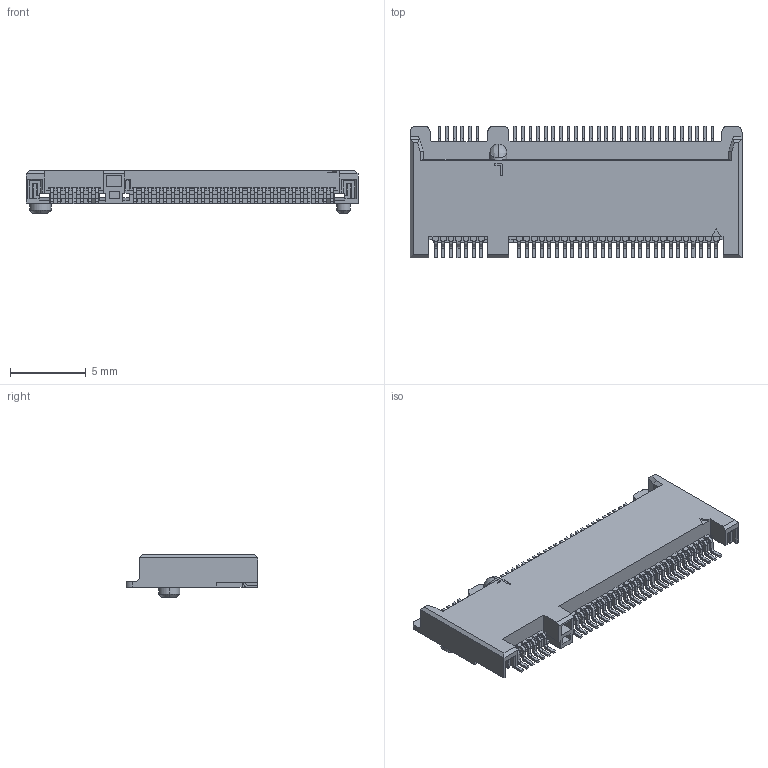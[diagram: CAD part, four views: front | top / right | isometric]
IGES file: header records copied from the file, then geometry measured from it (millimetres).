
Start section: SolidWorks IGES file using analytic representation for surfaces
Global section: file name: Q:\Kamikawa_Hisako\170121\MK\H2.3_101\20_6411_067_101_894_L.IGS; native system: SolidWorks 2014; preprocessor: SolidWorks 2014; author: 151066016; date: 170125.095323; units: millimetre
Bounding box: 21.9 x 8.7 x 2.82 mm (x, y, z)
Surface area: 665 mm2 (no closed solid volume)
Topology: 0 solids, 0 shells, 1973 faces, 12974 edges, 12972 vertices
Faces by surface type: bspline 1476, revolution 497
